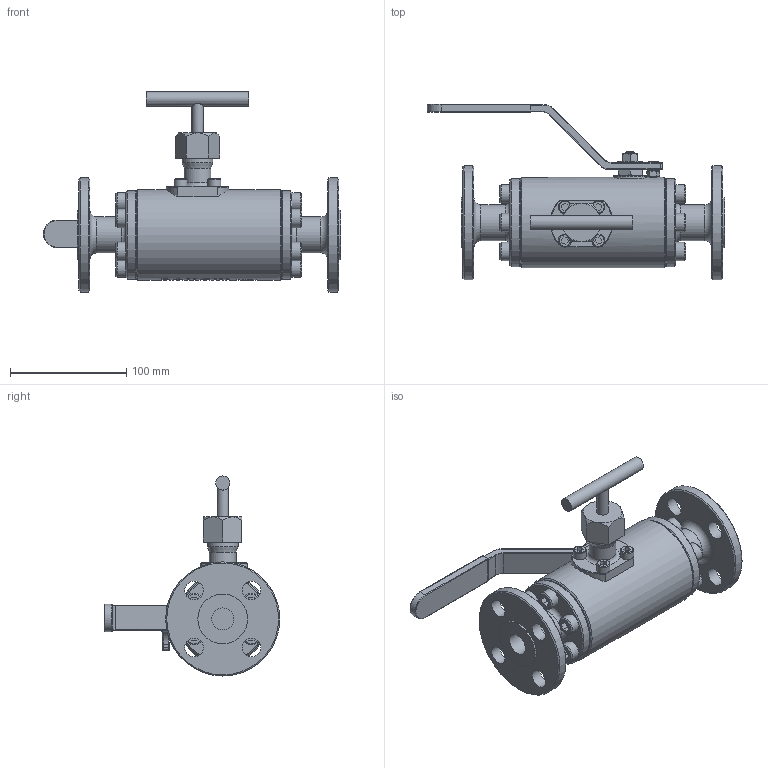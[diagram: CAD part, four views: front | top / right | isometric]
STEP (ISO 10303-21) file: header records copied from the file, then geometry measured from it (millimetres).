
FILE_DESCRIPTION(/* description */ (''),/* implementation_level */ '2;1');
FILE_NAME(/* name */ 'C:\Users\pc\Desktop\TFED-¾-150-PT-RFxRF-PALANCA.stp',/* time_stamp */ '2022-08-27T16:17:56-03:00',/* author */ ('pc'),/* organization */ (''),/* preprocessor_version */ 'ST-DEVELOPER v18',/* originating_system */ 'Autodesk Inventor 2020',/* authorisation */ '');
FILE_SCHEMA (('AUTOMOTIVE_DESIGN { 1 0 10303 214 3 1 1 }'));
Length unit declared in the file: millimetre
Products named in the file (2): TFED-¾-150-PT-RFxRF-PALANCA; TFED-¾-150-PT-RFxRF-PALANCA_1
Assembly tree (1 placements, depth 2):
  TFED-¾-150-PT-RFxRF-PALANCA
    TFED-¾-150-PT-RFxRF-PALANCA_1
Bounding box: 256.07 x 151.34 x 172.4 mm (x, y, z)
Volume: 925936.6 mm3; surface area: 138581.4 mm2
Topology: 1 solids, 13 shells, 649 faces, 1761 edges, 1173 vertices
Faces by surface type: plane 298, cone 159, cylinder 148, torus 26, bspline 17, sphere 1
Full cylindrical faces by diameter (mm): 2.668 x1, 5.968 x2, 7.04 x4, 7.878 x12, 7.957 x1, 9.823 x1, 9.947 x1, 11.264 x4, 12.157 x1, 12.891 x1, 16 x20, 19 x2, 21.485 x1, 23.1 x1, 26.4 x1, 31 x2, 42.9 x2, 76 x2, 78 x1, 98.4 x2
Entity records: 23741 total; most frequent: CARTESIAN_POINT 7318, ORIENTED_EDGE 3520, DIRECTION 3355, EDGE_CURVE 1760, AXIS2_PLACEMENT_3D 1255, VERTEX_POINT 1173, LINE 845, VECTOR 845
